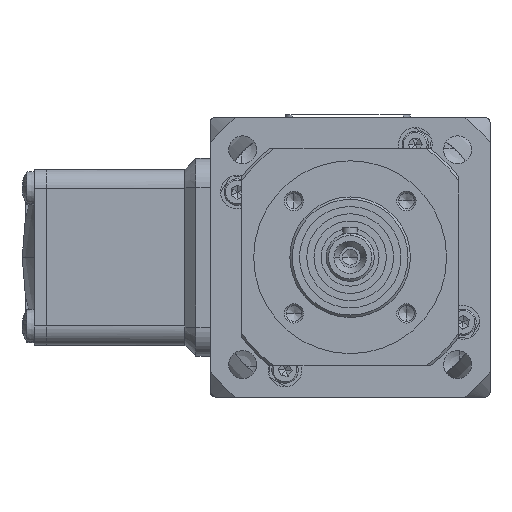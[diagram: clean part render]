
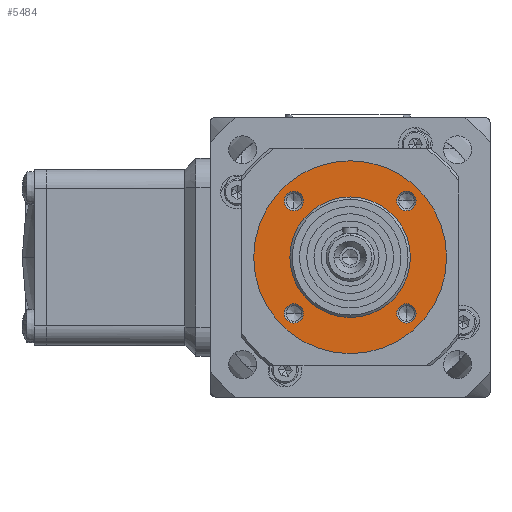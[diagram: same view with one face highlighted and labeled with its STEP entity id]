
A CAD part, left-side view. The second image highlights one B-rep face of the part: STEP entity #5484.
In plain terms, the highlighted planar face has unit normal (-1, 0, 0).
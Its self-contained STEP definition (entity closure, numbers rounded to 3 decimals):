
#5484=ADVANCED_FACE('',(#8873,#8874,#8875,#8876,#8877,#8878),#8879,.T.);
#8873=FACE_OUTER_BOUND('',#14184,.T.);
#8874=FACE_BOUND('',#14185,.T.);
#8875=FACE_BOUND('',#14186,.T.);
#8876=FACE_BOUND('',#14187,.T.);
#8877=FACE_BOUND('',#14188,.T.);
#8878=FACE_BOUND('',#14189,.T.);
#8879=PLANE('',#14190);
#14184=EDGE_LOOP('',(#18749,#18750));
#14185=EDGE_LOOP('',(#18751,#18752));
#14186=EDGE_LOOP('',(#18753,#18754));
#14187=EDGE_LOOP('',(#18755,#18756));
#14188=EDGE_LOOP('',(#18757,#18758));
#14189=EDGE_LOOP('',(#18759,#18760));
#14190=AXIS2_PLACEMENT_3D('',#18761,#18762,#18763);
#18749=ORIENTED_EDGE('',*,*,#21726,.F.);
#18750=ORIENTED_EDGE('',*,*,#22291,.F.);
#18751=ORIENTED_EDGE('',*,*,#21077,.T.);
#18752=ORIENTED_EDGE('',*,*,#22261,.T.);
#18753=ORIENTED_EDGE('',*,*,#22794,.T.);
#18754=ORIENTED_EDGE('',*,*,#20802,.T.);
#18755=ORIENTED_EDGE('',*,*,#21632,.T.);
#18756=ORIENTED_EDGE('',*,*,#22795,.T.);
#18757=ORIENTED_EDGE('',*,*,#21948,.T.);
#18758=ORIENTED_EDGE('',*,*,#20739,.T.);
#18759=ORIENTED_EDGE('',*,*,#22796,.T.);
#18760=ORIENTED_EDGE('',*,*,#21388,.T.);
#18761=CARTESIAN_POINT('',(-150.025,0.,-52.125));
#18762=DIRECTION('',(-1.0,-0.0,0.0));
#18763=DIRECTION('',(0.0,-1.0,0.));
#20739=EDGE_CURVE('',#23999,#24001,#24003,.T.);
#20802=EDGE_CURVE('',#24104,#24109,#24111,.T.);
#21077=EDGE_CURVE('',#24599,#24596,#24600,.T.);
#21388=EDGE_CURVE('',#25130,#25134,#25136,.T.);
#21632=EDGE_CURVE('',#25545,#25542,#25546,.T.);
#21726=EDGE_CURVE('',#25705,#25703,#25707,.T.);
#21948=EDGE_CURVE('',#24001,#23999,#26076,.T.);
#22261=EDGE_CURVE('',#24596,#24599,#26609,.T.);
#22291=EDGE_CURVE('',#25703,#25705,#26656,.T.);
#22794=EDGE_CURVE('',#24109,#24104,#27443,.T.);
#22795=EDGE_CURVE('',#25542,#25545,#27444,.T.);
#22796=EDGE_CURVE('',#25134,#25130,#27445,.T.);
#23999=VERTEX_POINT('',#29369);
#24001=VERTEX_POINT('',#29372);
#24003=CIRCLE('',#29375,2.0);
#24104=VERTEX_POINT('',#29504);
#24109=VERTEX_POINT('',#29510);
#24111=CIRCLE('',#29513,2.0);
#24596=VERTEX_POINT('',#30382);
#24599=VERTEX_POINT('',#30386);
#24600=CIRCLE('',#30387,2.0);
#25130=VERTEX_POINT('',#31200);
#25134=VERTEX_POINT('',#31205);
#25136=CIRCLE('',#31208,12.5);
#25542=VERTEX_POINT('',#31796);
#25545=VERTEX_POINT('',#31800);
#25546=CIRCLE('',#31801,2.0);
#25703=VERTEX_POINT('',#32085);
#25705=VERTEX_POINT('',#32088);
#25707=CIRCLE('',#32091,20.0);
#26076=CIRCLE('',#32666,2.0);
#26609=CIRCLE('',#33569,2.0);
#26656=CIRCLE('',#33649,20.0);
#27443=CIRCLE('',#35083,2.0);
#27444=CIRCLE('',#35084,2.0);
#27445=CIRCLE('',#35085,12.5);
#29369=CARTESIAN_POINT('',(-150.025,-13.667,-50.458));
#29372=CARTESIAN_POINT('',(-150.025,-9.667,-50.458));
#29375=AXIS2_PLACEMENT_3D('',#38146,#38147,#38148);
#29504=CARTESIAN_POINT('',(-150.025,13.667,-73.792));
#29510=CARTESIAN_POINT('',(-150.025,9.667,-73.792));
#29513=AXIS2_PLACEMENT_3D('',#38226,#38227,#38228);
#30382=CARTESIAN_POINT('',(-150.025,11.667,-48.458));
#30386=CARTESIAN_POINT('',(-150.025,11.667,-52.458));
#30387=AXIS2_PLACEMENT_3D('',#38558,#38559,#38560);
#31200=CARTESIAN_POINT('',(-150.025,0.,-49.625));
#31205=CARTESIAN_POINT('',(-150.025,0.,-74.625));
#31208=AXIS2_PLACEMENT_3D('',#38940,#38941,#38942);
#31796=CARTESIAN_POINT('',(-150.025,-11.667,-75.792));
#31800=CARTESIAN_POINT('',(-150.025,-11.667,-71.792));
#31801=AXIS2_PLACEMENT_3D('',#39202,#39203,#39204);
#32085=CARTESIAN_POINT('',(-150.025,0.,-42.125));
#32088=CARTESIAN_POINT('',(-150.025,0.,-82.125));
#32091=AXIS2_PLACEMENT_3D('',#39298,#39299,#39300);
#32666=AXIS2_PLACEMENT_3D('',#39557,#39558,#39559);
#33569=AXIS2_PLACEMENT_3D('',#39926,#39927,#39928);
#33649=AXIS2_PLACEMENT_3D('',#39947,#39948,#39949);
#35083=AXIS2_PLACEMENT_3D('',#40463,#40464,#40465);
#35084=AXIS2_PLACEMENT_3D('',#40466,#40467,#40468);
#35085=AXIS2_PLACEMENT_3D('',#40469,#40470,#40471);
#38146=CARTESIAN_POINT('',(-150.025,-11.667,-50.458));
#38147=DIRECTION('',(1.0,0.0,0.0));
#38148=DIRECTION('',(0.0,-1.0,0.));
#38226=CARTESIAN_POINT('',(-150.025,11.667,-73.792));
#38227=DIRECTION('',(1.0,0.0,-0.0));
#38228=DIRECTION('',(0.0,1.0,0.));
#38558=CARTESIAN_POINT('',(-150.025,11.667,-50.458));
#38559=DIRECTION('',(1.0,0.0,0.0));
#38560=DIRECTION('',(0.0,0.,1.0));
#38940=CARTESIAN_POINT('',(-150.025,0.,-62.125));
#38941=DIRECTION('',(1.0,0.0,0.0));
#38942=DIRECTION('',(0.0,0.,1.0));
#39202=CARTESIAN_POINT('',(-150.025,-11.667,-73.792));
#39203=DIRECTION('',(1.0,0.0,0.0));
#39204=DIRECTION('',(0.0,0.,-1.0));
#39298=CARTESIAN_POINT('',(-150.025,0.,-62.125));
#39299=DIRECTION('',(1.0,0.0,0.0));
#39300=DIRECTION('',(0.0,0.,1.0));
#39557=CARTESIAN_POINT('',(-150.025,-11.667,-50.458));
#39558=DIRECTION('',(1.0,0.0,0.0));
#39559=DIRECTION('',(0.0,-1.0,0.));
#39926=CARTESIAN_POINT('',(-150.025,11.667,-50.458));
#39927=DIRECTION('',(1.0,0.0,0.0));
#39928=DIRECTION('',(0.0,0.,1.0));
#39947=CARTESIAN_POINT('',(-150.025,0.,-62.125));
#39948=DIRECTION('',(1.0,0.0,0.0));
#39949=DIRECTION('',(0.0,0.,1.0));
#40463=CARTESIAN_POINT('',(-150.025,11.667,-73.792));
#40464=DIRECTION('',(1.0,0.0,-0.0));
#40465=DIRECTION('',(0.0,1.0,0.));
#40466=CARTESIAN_POINT('',(-150.025,-11.667,-73.792));
#40467=DIRECTION('',(1.0,0.0,0.0));
#40468=DIRECTION('',(0.0,0.,-1.0));
#40469=CARTESIAN_POINT('',(-150.025,0.,-62.125));
#40470=DIRECTION('',(1.0,0.0,0.0));
#40471=DIRECTION('',(0.0,0.,1.0));
